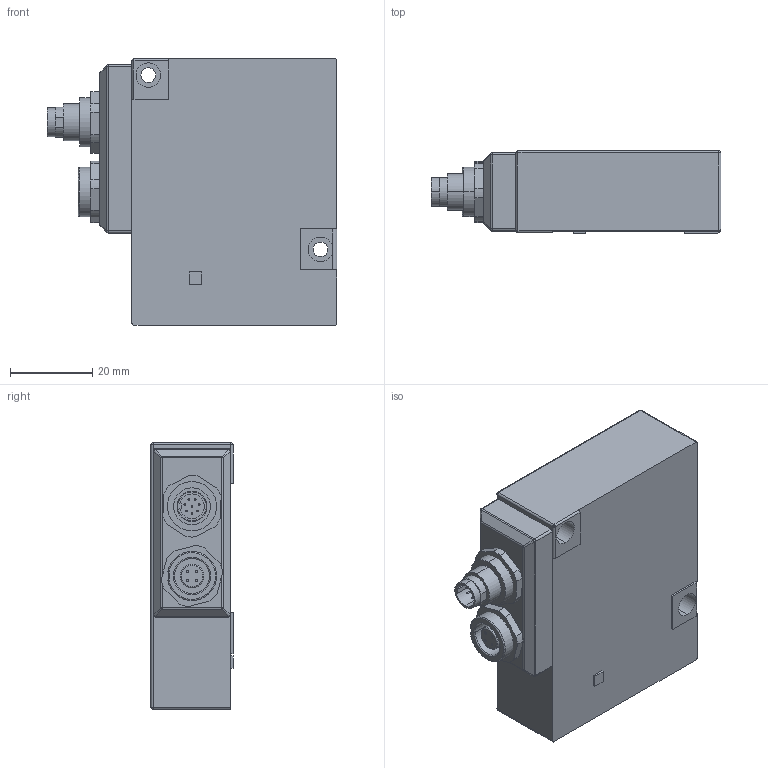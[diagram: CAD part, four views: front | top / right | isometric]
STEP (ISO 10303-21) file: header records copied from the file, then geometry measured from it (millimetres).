
FILE_DESCRIPTION (( 'STEP AP203' ), '1' );
FILE_NAME ('RF603_2CC.STEP', '2011-03-17T08:05:50', ( 'Ñåðãåé Ì' ), ( '' ), 'SwSTEP 2.0', 'SolidWorks 2009', '' );
FILE_SCHEMA (( 'CONFIG_CONTROL_DESIGN' ));
Length unit declared in the file: millimetre
Products named in the file (7): RF603_2CC; RF603.00.04; RF603.00.80; Raz_09_0427_80_08_Default; ISO 14581_Ì2õ4_Default; G Raz_09_0427_80_08; Raz_09_0412_80_04_Default
Assembly tree (9 placements, depth 2):
  RF603_2CC
    RF603.00.80
    G Raz_09_0427_80_08  x2
    ISO 14581_Ì2õ4_Default  x3
    Raz_09_0427_80_08_Default
    RF603.00.04
    Raz_09_0412_80_04_Default
Bounding box: 70.7 x 20 x 65 mm (x, y, z)
Volume: 67385.6 mm3; surface area: 17347 mm2
Topology: 9 solids, 9 shells, 456 faces, 1074 edges, 672 vertices
Faces by surface type: cylinder 206, plane 187, cone 42, sphere 13, torus 8
Entity records: 12273 total; most frequent: CARTESIAN_POINT 2179, DIRECTION 2098, ORIENTED_EDGE 1814, EDGE_CURVE 907, AXIS2_PLACEMENT_3D 821, VERTEX_POINT 576, LINE 456, VECTOR 456
